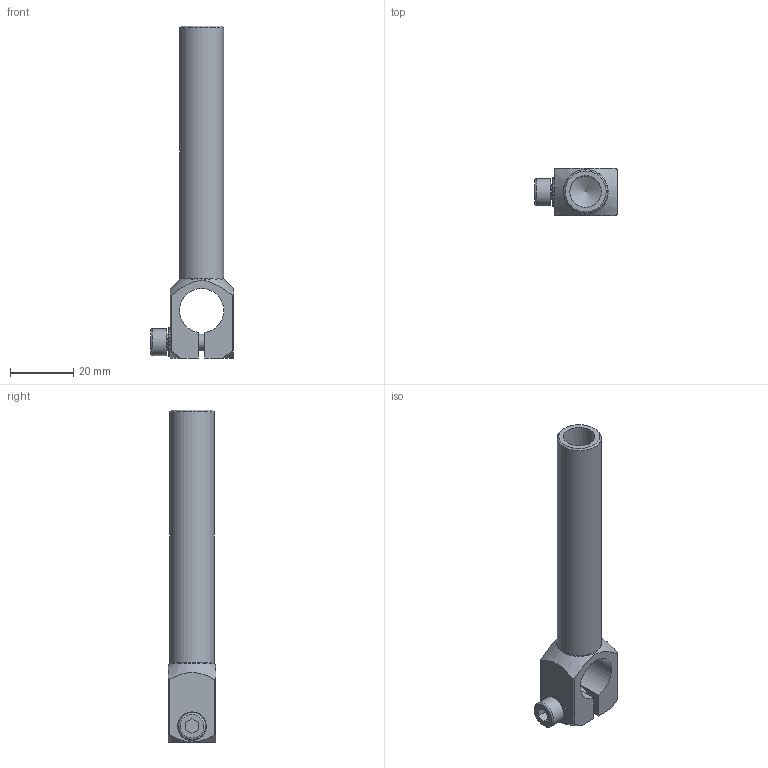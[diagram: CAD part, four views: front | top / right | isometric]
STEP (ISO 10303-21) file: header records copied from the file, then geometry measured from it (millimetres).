
FILE_DESCRIPTION(('STEP AP214'),'1');
FILE_NAME('CA.WKA.14.14.80.stp','2020-09-21T10:08:36',(' '),(' '),'Spatial InterOp 3D',' ',' ');
FILE_SCHEMA(('AUTOMOTIVE_DESIGN { 1 0 10303 214 1 1 1 1 }'));
Length unit declared in the file: millimetre
Products named in the file (4): CA.WKA.14.14.80; V.TCE5x20 ; R.5.SCH; WKA.14.14.80
Assembly tree (3 placements, depth 2):
  CA.WKA.14.14.80
    V.TCE5x20 
    R.5.SCH
    WKA.14.14.80
Bounding box: 26.1 x 15 x 105 mm (x, y, z)
Volume: 11700.8 mm3; surface area: 9287.2 mm2
Topology: 3 solids, 3 shells, 235 faces, 677 edges, 448 vertices
Faces by surface type: plane 211, cylinder 13, cone 8, torus 3
Full cylindrical faces by diameter (mm): 4.2 x1, 5 x1, 5.2 x1, 5.3 x1, 8.5 x1, 9 x1, 10 x1, 14 x1
Entity records: 9831 total; most frequent: CARTESIAN_POINT 1484, DIRECTION 1346, ORIENTED_EDGE 1314, EDGE_CURVE 657, AXIS2_PLACEMENT_3D 462, VERTEX_POINT 444, LINE 422, VECTOR 422
